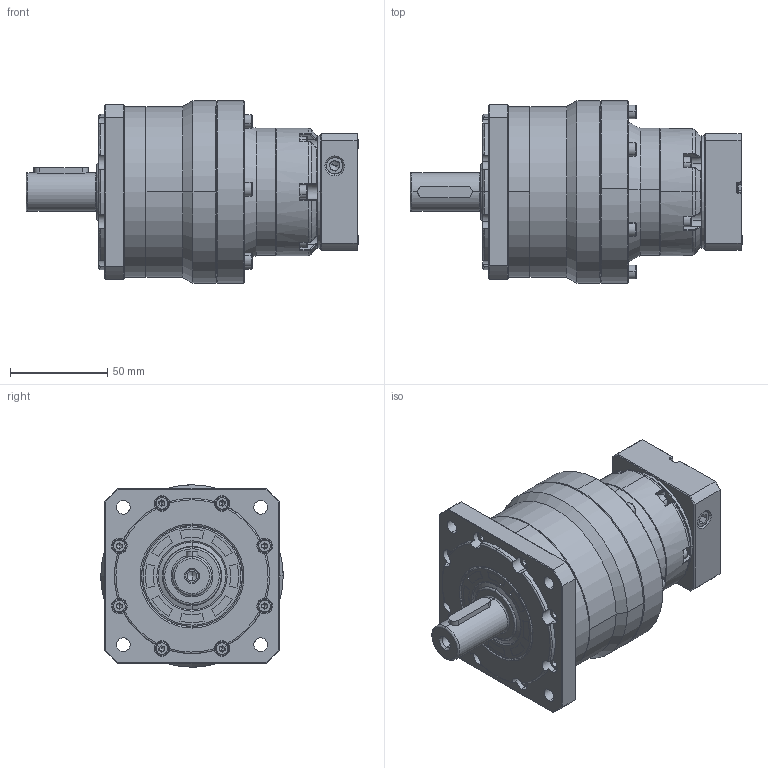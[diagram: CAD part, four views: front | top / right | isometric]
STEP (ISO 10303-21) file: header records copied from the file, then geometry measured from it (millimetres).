
FILE_DESCRIPTION (( 'STEP AP214' ), '1' );
FILE_NAME ('FGA080D-L2-19-50X21XM4.STEP', '2021-04-02T06:12:40', ( '微软用户' ), ( '微软中国' ), 'SwSTEP 2.0', 'SolidWorks 2014', '' );
FILE_SCHEMA (( 'AUTOMOTIVE_DESIGN' ));
Length unit declared in the file: millimetre
Products named in the file (78): hex socket set screws with cone point gb_GB_FASTENER_SCREWS_HSCP M10X10-N; 蚐猾30526; hexagon socket head cap screws gb_GB_FASTENER_SCREWS_HSHCS M4X25-N; hexagon socket head cap screws gb_GB_FASTENER_SCREWS_HSHCS M4X20-N; 怀堤俴陎殤FAB090-20粣; FE080内齿圈; 坶踡遠18-37-12(1); A倰す瑩 6-28; 输入太阳齿轮060D-14; 11-输入法兰FAB060D-50-70-M4.; FE080怀堤傷褲极; 3-输入端壳体FAD064D; 一级内齿圈壳体FAD064D-Z108; FGA080D-L2-19-50X21XM4; curved single coil spring lock washers gb_GB_FASTENER_WASHER_CSLW 4
Assembly tree (63 placements, depth 2):
  hex socket set screws with cone point gb_GB_FASTENER_SCREWS_HSCP M10X10-N
  hexagon socket head cap screws gb_GB_FASTENER_SCREWS_HSHCS M4X25-N
  hexagon socket head cap screws gb_GB_FASTENER_SCREWS_HSHCS M4X20-N
  hexagon socket head cap screws gb_GB_FASTENER_SCREWS_HSHCS M4X25-N
  hexagon socket head cap screws gb_GB_FASTENER_SCREWS_HSHCS M4X25-N
Bounding box: 171 x 94 x 94 mm (x, y, z)
Volume: 655658 mm3; surface area: 142089.4 mm2
Topology: 64 solids, 65 shells, 2480 faces, 6052 edges, 3732 vertices
Faces by surface type: plane 1149, cylinder 534, cone 352, bspline 305, torus 140
Entity records: 62022 total; most frequent: CARTESIAN_POINT 17440, ORIENTED_EDGE 6820, DIRECTION 6337, EDGE_CURVE 3410, AXIS2_PLACEMENT_3D 2345, VERTEX_POINT 2150, LINE 1647, VECTOR 1647
